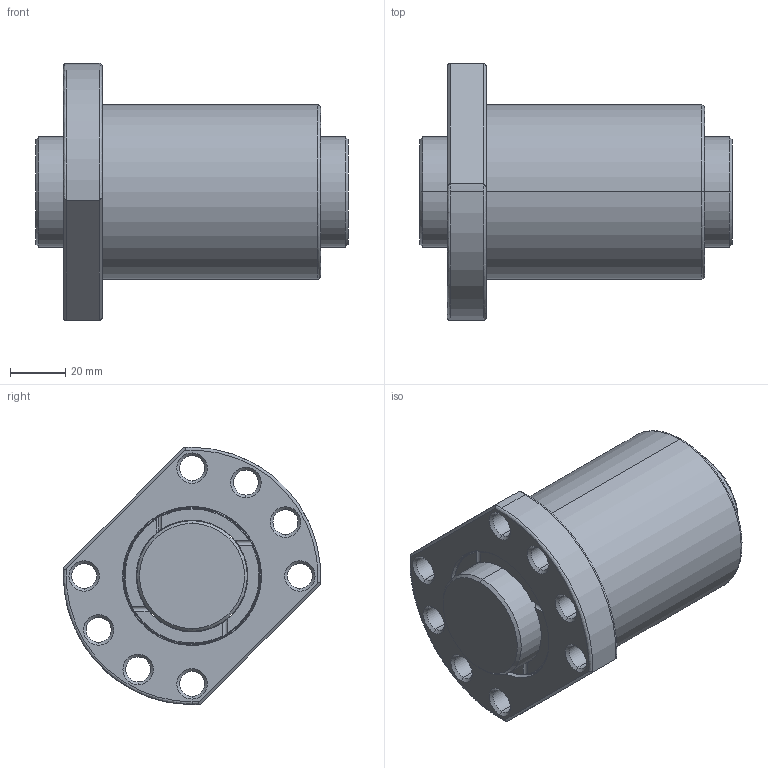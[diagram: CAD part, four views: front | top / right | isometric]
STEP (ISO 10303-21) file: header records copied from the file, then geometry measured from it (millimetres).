
FILE_DESCRIPTION (( 'STEP AP203' ), '1' );
FILE_NAME ('SFUR04010T4D-C.STEP', '2020-06-16T07:37:15', ( '' ), ( '' ), 'SwSTEP 2.0', 'SolidWorks 2013', '' );
FILE_SCHEMA (( 'CONFIG_CONTROL_DESIGN' ));
Length unit declared in the file: millimetre
Products named in the file (1): SFUR04010T4D-C
Bounding box: 113 x 92.83 x 93 mm (x, y, z)
Volume: 324881.6 mm3; surface area: 64940.4 mm2
Topology: 2 solids, 2 shells, 133 faces, 325 edges, 200 vertices
Faces by surface type: cylinder 61, bspline 26, plane 26, cone 20
Entity records: 5241 total; most frequent: CARTESIAN_POINT 2163, ORIENTED_EDGE 650, DIRECTION 603, EDGE_CURVE 325, AXIS2_PLACEMENT_3D 254, VERTEX_POINT 200, EDGE_LOOP 159, CIRCLE 146
